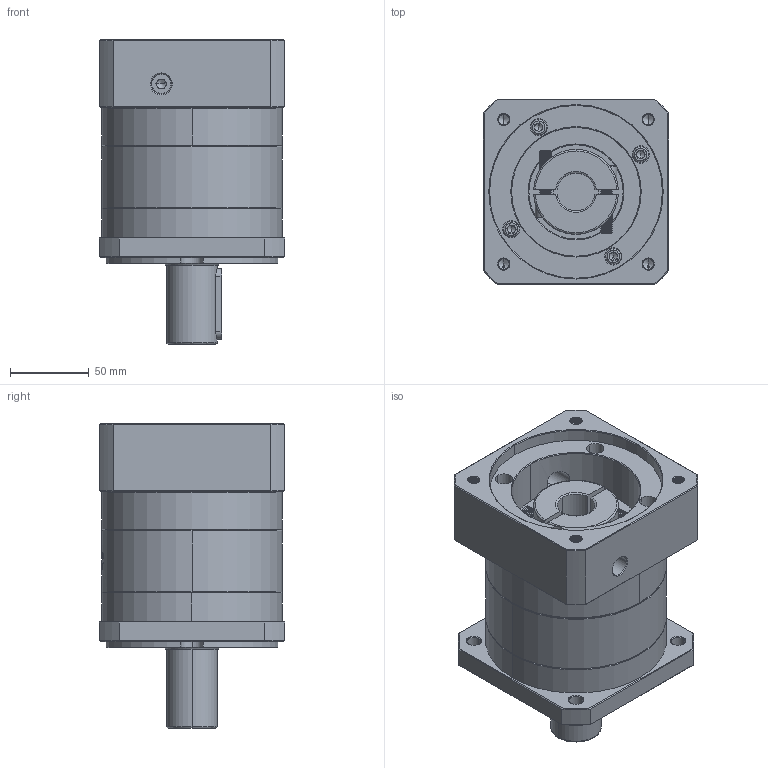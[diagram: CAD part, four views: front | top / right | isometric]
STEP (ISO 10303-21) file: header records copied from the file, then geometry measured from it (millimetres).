
FILE_DESCRIPTION (( 'STEP AP214' ), '1' );
FILE_NAME ('ZF120A-D32-L1-P2-24-110-130-M8.step', '2023-08-27T04:44:15', ( '' ), ( '' ), 'SwSTEP 2.0', 'SolidWorks 2016', '' );
FILE_SCHEMA (( 'AUTOMOTIVE_DESIGN' ));
Length unit declared in the file: millimetre
Products named in the file (1): ZF120A-D32-L1-P2-24-110-130-M8
Bounding box: 118 x 118 x 193.5 mm (x, y, z)
Volume: 1457744.8 mm3; surface area: 167422.1 mm2
Topology: 6 solids, 6 shells, 2219 faces, 5885 edges, 3771 vertices
Faces by surface type: plane 1034, cylinder 422, bspline 419, cone 324, torus 20
Entity records: 122982 total; most frequent: CARTESIAN_POINT 48916, ORIENTED_EDGE 11710, DIRECTION 8482, EDGE_CURVE 5855, VERTEX_POINT 3771, LINE 3092, VECTOR 3092, AXIS2_PLACEMENT_3D 2695
